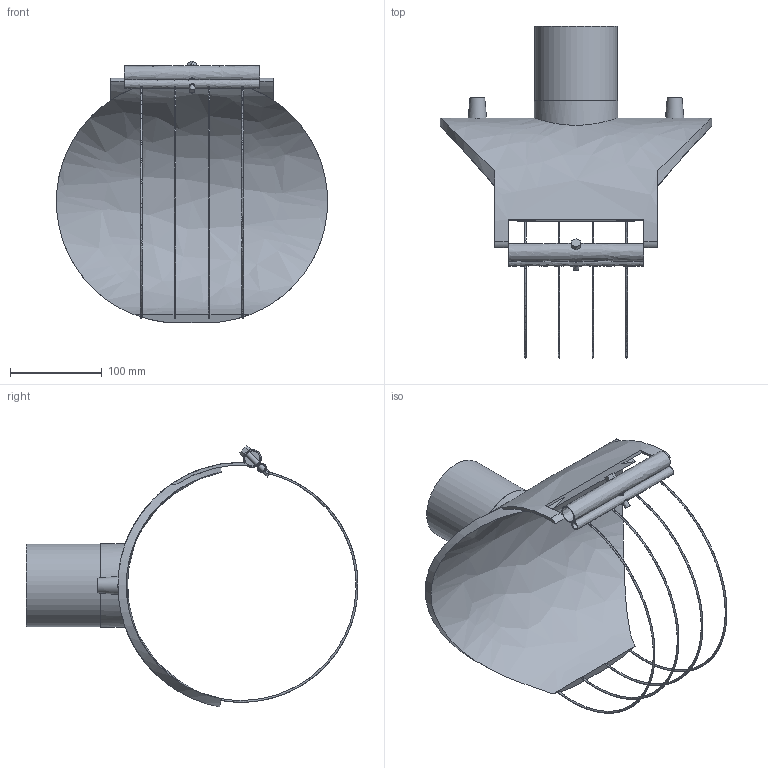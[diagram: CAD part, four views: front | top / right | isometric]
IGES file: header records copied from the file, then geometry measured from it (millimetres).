
Global section: file name: 4958X4250090T; native system: Autodesk Inventor 2021; preprocessor: unknown; author: KIM; date: 20250507.121541; units: millimetre
Bounding box: 295 x 361 x 284.56 mm (x, y, z)
Volume: 1003304.2 mm3; surface area: 276100.9 mm2
Topology: 1 solids, 1 shells, 62 faces, 187 edges, 126 vertices
Faces by surface type: bspline 62
